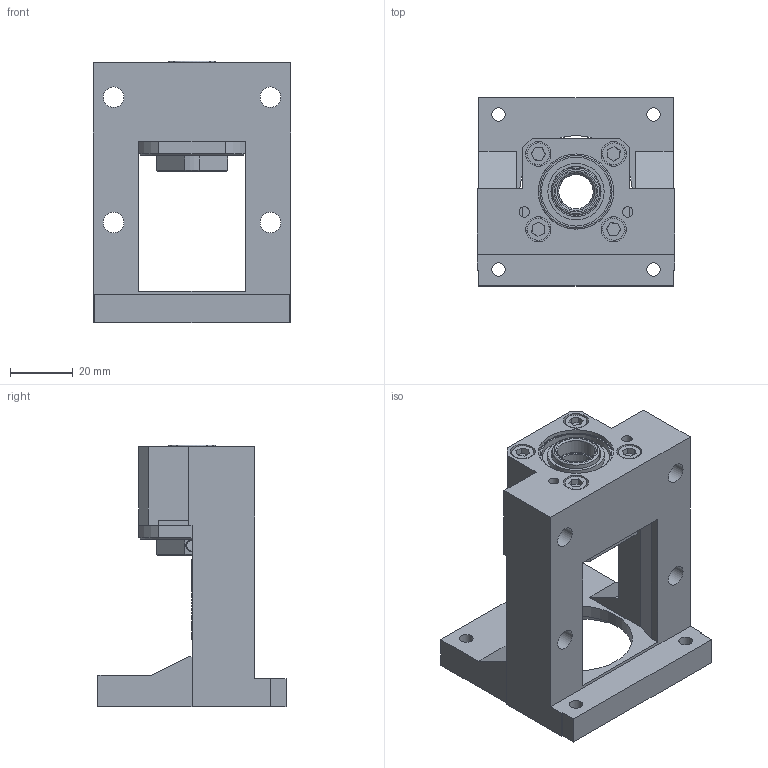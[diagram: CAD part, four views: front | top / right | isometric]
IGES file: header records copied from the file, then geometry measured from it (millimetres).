
Start section: SolidWorks IGES file using analytic representation for surfaces
Bounding box: 63 x 60 x 83.5 mm (x, y, z)
Surface area: 31498.5 mm2 (no closed solid volume)
Topology: 0 solids, 0 shells, 184 faces, 868 edges, 802 vertices
Faces by surface type: bspline 105, revolution 79
